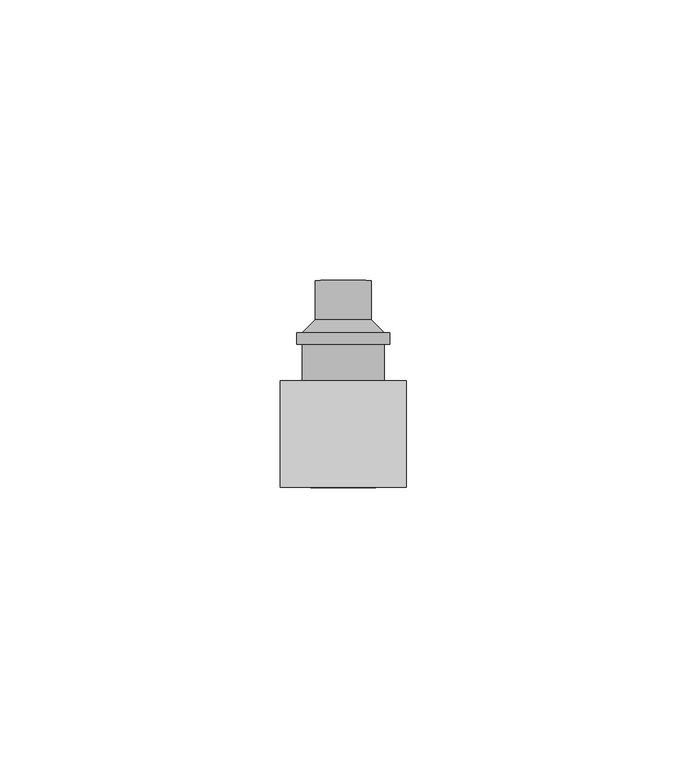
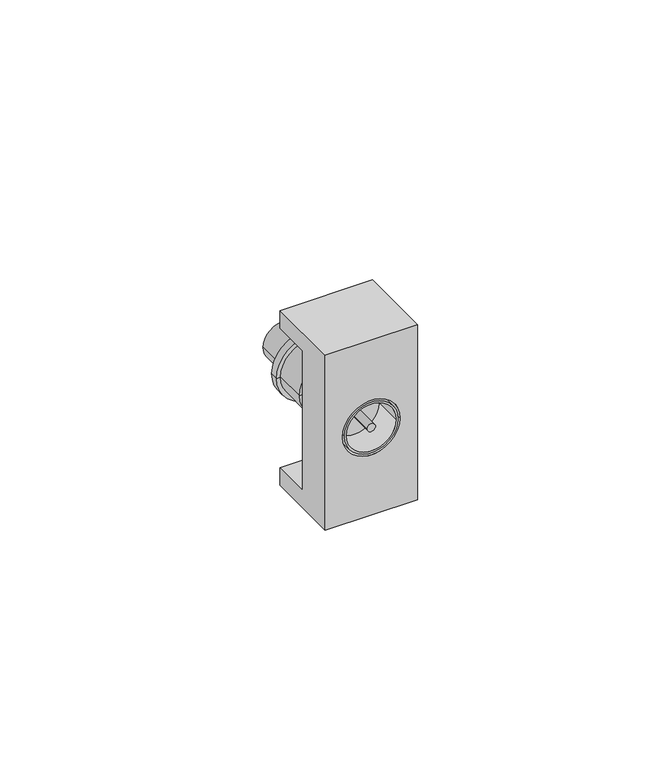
"""IFC4 building model written with IfcOpenShell, lengths in millimetres: proxy geometry."""

from ifc_helpers import new_model, si_unit, point, frame, frame_2d, origin, place, context, project, spatial, polyline, circle_curve, trimmed, segment, composite_curve, outline, extrude, source, transform, mapped, element, save
from ifc_brep_helpers import plane_surface, cylinder_surface, revolved_surface, advanced_brep


def electrical_fixtures_e4b5cbe2(model_context):
    return source(origin(), model_context, "Body", "SolidModel", [
        advanced_brep(
        [(3.907822, 10.6674148, 0.0), (18.492178, 10.6674148, 0.0), (16.2, 10.6674148, 0.0), (6.2, 10.6674148, 0.0), (3.907822, 18.560322, 0.0), (18.492178, 18.560322, 0.0), (2.907822, 18.560322, 0.0), (19.492178, 18.560322, 0.0), (2.907822, 20.560322, 0.0), (19.492178, 20.560322, 0.0), (3.860322, 20.560322, 0.0), (18.539678, 20.560322, 0.0), (6.2, 22.9, 0.0), (16.2, 22.9, 0.0), (6.2, 29.9, 0.0), (16.2, 29.9, 0.0), (11.2, 29.9, 0.0), (3.6759699, 2.5, 0.0), (18.7240301, 2.5, 0.0), (11.2, 2.5, 0.0), (3.6759699, 3.634892, 0.0), (18.7240301, 3.634892, 0.0), (4.6616357, 6.3429866, 0.0), (17.7383643, 6.3429866, 0.0), (6.2, 6.3429866, 0.0), (16.2, 6.3429866, 0.0)],
        [
            (0, 1, circle_curve(frame((11.2, 10.6674148, 0.0), z_axis=(0.0, -1.0, 0.0), x_axis=(1.0, 0.0, 0.0)), 7.292178)),
            (1, 2),
            (2, 3, circle_curve(frame((11.2, 10.6674148, 0.0), z_axis=(0.0, 1.0, 0.0), x_axis=(1.0, 0.0, 0.0)), 5.0)),
            (3, 0),
            (1, 0, circle_curve(frame((11.2, 10.6674148, 0.0), z_axis=(0.0, -1.0, 0.0), x_axis=(1.0, 0.0, 0.0)), 7.292178)),
            (3, 2, circle_curve(frame((11.2, 10.6674148, 0.0), z_axis=(0.0, 1.0, 0.0), x_axis=(1.0, 0.0, 0.0)), 5.0)),
            (4, 5, circle_curve(frame((11.2, 18.560322, 0.0), z_axis=(0.0, -1.0, 0.0), x_axis=(1.0, 0.0, 0.0)), 7.292178)),
            (5, 1),
            (0, 4),
            (5, 4, circle_curve(frame((11.2, 18.560322, 0.0), z_axis=(0.0, -1.0, 0.0), x_axis=(1.0, 0.0, 0.0)), 7.292178)),
            (6, 7, circle_curve(frame((11.2, 18.560322, 0.0), z_axis=(0.0, -1.0, 0.0), x_axis=(1.0, 0.0, 0.0)), 8.292178)),
            (7, 5),
            (4, 6),
            (7, 6, circle_curve(frame((11.2, 18.560322, 0.0), z_axis=(0.0, -1.0, 0.0), x_axis=(1.0, 0.0, 0.0)), 8.292178)),
            (8, 9, circle_curve(frame((11.2, 20.560322, 0.0), z_axis=(0.0, -1.0, 0.0), x_axis=(1.0, 0.0, 0.0)), 8.292178)),
            (9, 7),
            (6, 8),
            (9, 8, circle_curve(frame((11.2, 20.560322, 0.0), z_axis=(0.0, -1.0, 0.0), x_axis=(1.0, 0.0, 0.0)), 8.292178)),
            (10, 11, circle_curve(frame((11.2, 20.560322, 0.0), z_axis=(0.0, -1.0, 0.0), x_axis=(1.0, 0.0, 0.0)), 7.339678)),
            (11, 9),
            (8, 10),
            (11, 10, circle_curve(frame((11.2, 20.560322, 0.0), z_axis=(0.0, -1.0, 0.0), x_axis=(1.0, 0.0, 0.0)), 7.339678)),
            (12, 13, circle_curve(frame((11.2, 22.9, 0.0), z_axis=(0.0, -1.0, 0.0), x_axis=(1.0, 0.0, 0.0)), 5.0)),
            (13, 11),
            (10, 12),
            (13, 12, circle_curve(frame((11.2, 22.9, 0.0), z_axis=(0.0, -1.0, 0.0), x_axis=(1.0, 0.0, 0.0)), 5.0)),
            (14, 15, circle_curve(frame((11.2, 29.9, 0.0), z_axis=(0.0, -1.0, 0.0), x_axis=(1.0, 0.0, 0.0)), 5.0)),
            (15, 13),
            (12, 14),
            (15, 14, circle_curve(frame((11.2, 29.9, 0.0), z_axis=(0.0, -1.0, 0.0), x_axis=(1.0, 0.0, 0.0)), 5.0)),
            (16, 15),
            (14, 16),
            (17, 18, circle_curve(frame((11.2, 2.5, 0.0), z_axis=(0.0, -1.0, 0.0), x_axis=(1.0, 0.0, 0.0)), 7.5240301)),
            (18, 19),
            (19, 17),
            (18, 17, circle_curve(frame((11.2, 2.5, 0.0), z_axis=(0.0, -1.0, 0.0), x_axis=(1.0, 0.0, 0.0)), 7.5240301)),
            (20, 21, circle_curve(frame((11.2, 3.634892, 0.0), z_axis=(0.0, -1.0, 0.0), x_axis=(1.0, 0.0, 0.0)), 7.5240301)),
            (21, 18),
            (17, 20),
            (21, 20, circle_curve(frame((11.2, 3.634892, 0.0), z_axis=(0.0, -1.0, 0.0), x_axis=(1.0, 0.0, 0.0)), 7.5240301)),
            (22, 23, circle_curve(frame((11.2, 6.3429866, 0.0), z_axis=(0.0, -1.0, 0.0), x_axis=(1.0, 0.0, 0.0)), 6.5383643)),
            (23, 21),
            (20, 22),
            (23, 22, circle_curve(frame((11.2, 6.3429866, 0.0), z_axis=(0.0, -1.0, 0.0), x_axis=(1.0, 0.0, 0.0)), 6.5383643)),
            (24, 25, circle_curve(frame((11.2, 6.3429866, 0.0), z_axis=(0.0, -1.0, 0.0), x_axis=(1.0, 0.0, 0.0)), 5.0)),
            (25, 23),
            (22, 24),
            (25, 24, circle_curve(frame((11.2, 6.3429866, 0.0), z_axis=(0.0, -1.0, 0.0), x_axis=(1.0, 0.0, 0.0)), 5.0)),
            (2, 25),
            (24, 3),
        ],
        [
            plane_surface(frame((11.2, 10.6674148, 0.0), z_axis=(0.0, -1.0, 0.0), x_axis=(1.0, 0.0, 0.0))),
            cylinder_surface(frame((11.2, 29.9, 0.0), z_axis=(0.0, 1.0, 0.0), x_axis=(1.0, 0.0, 0.0)), 7.292178),
            plane_surface(frame((11.2, 18.560322, 0.0), z_axis=(0.0, -1.0, 0.0), x_axis=(1.0, 0.0, 0.0))),
            cylinder_surface(frame((11.2, 29.9, 0.0), z_axis=(0.0, 1.0, 0.0), x_axis=(1.0, 0.0, 0.0)), 8.292178),
            plane_surface(frame((11.2, 20.560322, 0.0), z_axis=(0.0, 1.0, 0.0), x_axis=(1.0, 0.0, 0.0))),
            revolved_surface(polyline([(18.539678, 20.560322, 0.0), (16.2, 22.9, 0.0)]), (11.2, 29.9, 0.0), (0.0, 1.0, 0.0)),
            cylinder_surface(frame((11.2, 29.9, 0.0), z_axis=(0.0, 1.0, 0.0), x_axis=(1.0, 0.0, 0.0)), 5.0),
            plane_surface(frame((11.2, 29.9, 0.0), z_axis=(0.0, 1.0, 0.0), x_axis=(1.0, 0.0, 0.0))),
            plane_surface(frame((11.2, 2.5, 0.0), z_axis=(0.0, -1.0, 0.0), x_axis=(1.0, 0.0, 0.0))),
            cylinder_surface(frame((11.2, 29.9, 0.0), z_axis=(0.0, 1.0, 0.0), x_axis=(1.0, 0.0, 0.0)), 7.5240301),
            revolved_surface(polyline([(18.7240301, 3.634892, 0.0), (17.7383643, 6.3429866, 0.0)]), (11.2, 29.9, 0.0), (0.0, 1.0, 0.0)),
            plane_surface(frame((11.2, 6.3429866, 0.0), z_axis=(0.0, 1.0, 0.0), x_axis=(1.0, 0.0, 0.0))),
        ],
        [
            (0, [[1, 2, 3, 4]]),
            (0, [[5, -4, 6, -2]]),
            (1, [[7, 8, -1, 9]]),
            (1, [[10, -9, -5, -8]]),
            (2, [[11, 12, -7, 13]]),
            (2, [[14, -13, -10, -12]]),
            (3, [[15, 16, -11, 17]]),
            (3, [[18, -17, -14, -16]]),
            (4, [[19, 20, -15, 21]]),
            (4, [[22, -21, -18, -20]]),
            (5, [[23, 24, -19, 25]]),
            (5, [[26, -25, -22, -24]]),
            (6, [[27, 28, -23, 29]]),
            (6, [[30, -29, -26, -28]]),
            (7, [[31, -27, 32]]),
            (7, [[-32, -30, -31]]),
            (8, [[33, 34, 35]]),
            (8, [[36, -35, -34]]),
            (9, [[37, 38, -33, 39]]),
            (9, [[40, -39, -36, -38]]),
            (10, [[41, 42, -37, 43]]),
            (10, [[44, -43, -40, -42]]),
            (11, [[45, 46, -41, 47]]),
            (11, [[48, -47, -44, -46]]),
            (6, [[-3, 49, -45, 50]]),
            (6, [[-6, -50, -48, -49]]),
        ],
    ),
        extrude(outline(composite_curve([segment(trimmed(circle_curve(frame_2d((0.0, 11.2)), 6.5), [point((0.0, 4.7))], [point((0.0, 17.7))], False, "CARTESIAN"), True, "CONTINUOUS"), segment(trimmed(circle_curve(frame_2d((0.0, 11.2)), 6.5), [point((0.0, 17.7))], [point((0.0, 4.7))], False, "CARTESIAN"), True, "CONTINUOUS")], self_intersect=False), holes=[composite_curve([segment(trimmed(circle_curve(frame_2d((0.0, 11.2)), 6.0), [point((0.0, 17.2))], [point((0.0, 5.2))], True, "CARTESIAN"), True, "CONTINUOUS"), segment(trimmed(circle_curve(frame_2d((0.0, 11.2)), 6.0), [point((0.0, 5.2))], [point((0.0, 17.2))], True, "CARTESIAN"), True, "CONTINUOUS")], self_intersect=False)]), frame((0.0, -7.0, 0.0), z_axis=(0.0, 1.0, 0.0), x_axis=(0.0, 0.0, 1.0)), (0.0, 0.0, 1.0), 7.0),
        extrude(outline(composite_curve([segment(trimmed(circle_curve(frame_2d((0.0, 11.2)), 1.0), [point((0.0, 10.2))], [point((0.0, 12.2))], False, "CARTESIAN"), True, "CONTINUOUS"), segment(trimmed(circle_curve(frame_2d((0.0, 11.2)), 1.0), [point((0.0, 12.2))], [point((0.0, 10.2))], False, "CARTESIAN"), True, "CONTINUOUS")], self_intersect=False)), frame((0.0, -7.0, 0.0), z_axis=(0.0, 1.0, 0.0), x_axis=(0.0, 0.0, 1.0)), (0.0, 0.0, 1.0), 7.0),
        advanced_brep(
        [(22.4, -7.0, -22.45), (22.4, -7.0, 22.45), (0.0, -7.0, 22.45), (0.0, -7.0, -22.45), (18.2, -7.0, 0.0), (4.2, -7.0, 0.0), (0.0, 2.5, -17.9207475), (0.0, 2.5, 17.9207475), (22.4, 2.5, 17.9207475), (22.4, 2.5, -17.9207475), (22.4, 12.0, -22.45), (22.4, 12.0, -17.9207475), (22.4, 12.0, 17.9207475), (22.4, 12.0, 22.45), (0.0, 12.0, 22.45), (0.0, 12.0, 17.9207475), (0.0, 12.0, -17.9207475), (0.0, 12.0, -22.45), (4.2, 0.0, 0.0), (18.2, 0.0, 0.0)],
        [
            (0, 1),
            (1, 2),
            (2, 3),
            (3, 0),
            (4, 5, circle_curve(frame((11.2, -7.0, 0.0), z_axis=(0.0, 1.0, 0.0), x_axis=(1.0, 0.0, 0.0)), 7.0)),
            (5, 4, circle_curve(frame((11.2, -7.0, 0.0), z_axis=(0.0, 1.0, 0.0), x_axis=(1.0, 0.0, 0.0)), 7.0)),
            (6, 7),
            (7, 8),
            (8, 9),
            (9, 6),
            (0, 10),
            (10, 11),
            (11, 9),
            (8, 12),
            (12, 13),
            (13, 1),
            (13, 14),
            (14, 2),
            (14, 15),
            (15, 7),
            (6, 16),
            (16, 17),
            (17, 3),
            (17, 10),
            (18, 19, circle_curve(frame((11.2, 0.0, 0.0), z_axis=(0.0, -1.0, 0.0), x_axis=(1.0, 0.0, 0.0)), 7.0)),
            (19, 18, circle_curve(frame((11.2, 0.0, 0.0), z_axis=(0.0, -1.0, 0.0), x_axis=(1.0, 0.0, 0.0)), 7.0)),
            (18, 5),
            (4, 19),
            (16, 11),
            (15, 12),
        ],
        [
            plane_surface(frame((22.4, -7.0, -22.45), z_axis=(0.0, -1.0, 0.0), x_axis=(0.0, 0.0, 1.0))),
            plane_surface(frame((22.4, 2.5, -22.45), z_axis=(0.0, 1.0, 0.0), x_axis=(0.0, 0.0, -1.0))),
            plane_surface(frame((22.4, -7.0, -22.45), z_axis=(1.0, 0.0, 0.0), x_axis=(0.0, 1.0, 0.0))),
            plane_surface(frame((22.4, -7.0, 22.45), z_axis=(0.0, 0.0, 1.0), x_axis=(0.0, 1.0, 0.0))),
            plane_surface(frame((0.0, -7.0, 22.45), z_axis=(-1.0, 0.0, 0.0), x_axis=(0.0, 1.0, 0.0))),
            plane_surface(frame((0.0, -7.0, -22.45), z_axis=(0.0, 0.0, -1.0), x_axis=(0.0, 1.0, 0.0))),
            plane_surface(frame((18.2, 0.0, 0.0), z_axis=(0.0, -1.0, 0.0), x_axis=(0.0, 0.0, -1.0))),
            revolved_surface(polyline([(18.2, -7.0, 0.0), (18.2, 0.0, 0.0)]), (11.2, 0.0, 0.0), (0.0, -1.0, 0.0)),
            plane_surface(frame((22.4, 12.0, -22.45), z_axis=(0.0, 1.0, 0.0), x_axis=(-1.0, 0.0, 0.0))),
            plane_surface(frame((22.4, 12.0, -17.9207475), z_axis=(0.0, 0.0, 1.0), x_axis=(-1.0, 0.0, 0.0))),
            plane_surface(frame((22.4, 2.5, 17.9207475), z_axis=(0.0, 0.0, -1.0), x_axis=(-1.0, 0.0, 0.0))),
            plane_surface(frame((22.4, 12.0, 17.9207475), z_axis=(0.0, 1.0, 0.0), x_axis=(-1.0, 0.0, 0.0))),
        ],
        [
            (0, [[1, 2, 3, 4], [5, 6]]),
            (1, [[7, 8, 9, 10]]),
            (2, [[-1, 11, 12, 13, -9, 14, 15, 16]]),
            (3, [[-2, -16, 17, 18]]),
            (4, [[-3, -18, 19, 20, -7, 21, 22, 23]]),
            (5, [[-11, -4, -23, 24]]),
            (6, [[25, 26]]),
            (7, [[-25, 27, -5, 28]]),
            (7, [[-26, -28, -6, -27]]),
            (8, [[-12, -24, -22, 29]]),
            (9, [[-13, -29, -21, -10]]),
            (10, [[-14, -8, -20, 30]]),
            (11, [[-15, -30, -19, -17]]),
        ],
    ),
    ])


if __name__ == "__main__":
    model = new_model("IFC4")
    model_context = context("Model", 3, world=origin())
    ifc_project = project(units=[si_unit("LENGTHUNIT", "METRE", prefix="MILLI")], contexts=[model_context])
    site = spatial("IfcSite", under=ifc_project)
    building = spatial("IfcBuilding", under=site)
    placement = place(None, origin())
    electrical_fixtures_shape = electrical_fixtures_e4b5cbe2(model_context)
    element("IfcBuildingElementProxy", 1, Name="Electrical Fixtures", at=placement, inside=building, context=model_context, shape_type="MappedRepresentation", body=[
        mapped(electrical_fixtures_shape, transform((0.0, 0.0, 0.0), x_axis=(1.0, 0.0, 0.0), y_axis=(0.0, 1.0, 0.0), z_axis=(0.0, 0.0, 1.0))),
    ])
    save(model, "model.ifc")
